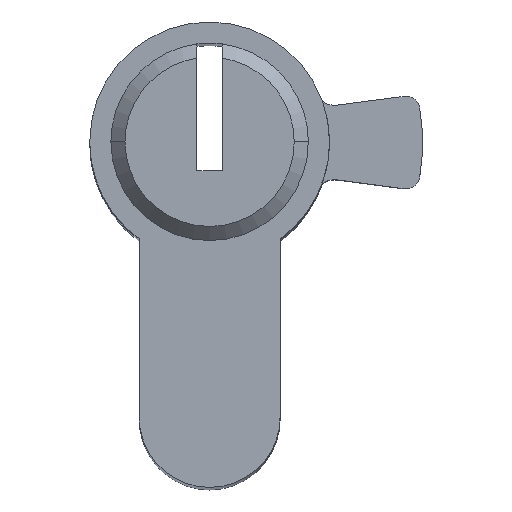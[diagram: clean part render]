
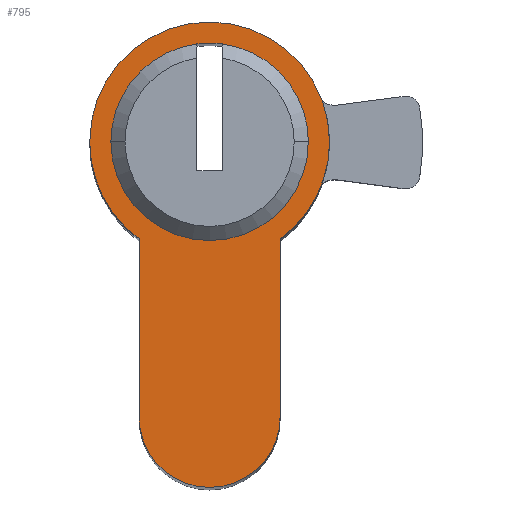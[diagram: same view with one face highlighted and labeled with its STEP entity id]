
A CAD part, top view. The second image highlights one B-rep face of the part: STEP entity #795.
In plain terms, the highlighted planar face has unit normal (0, 0, 1).
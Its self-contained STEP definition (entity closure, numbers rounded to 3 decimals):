
#22 = CARTESIAN_POINT ( 'NONE',  ( -5., -19.5, 30. ) ) ;
#25 = VERTEX_POINT ( 'NONE', #102 ) ;
#58 = DIRECTION ( 'NONE',  ( 0., 0., 1. ) ) ;
#66 = DIRECTION ( 'NONE',  ( 1., 0., 0. ) ) ;
#77 = DIRECTION ( 'NONE',  ( 1., 0., 0. ) ) ;
#93 = CIRCLE ( 'NONE', #362, 5. ) ;
#101 = CARTESIAN_POINT ( 'NONE',  ( 0., 0., 30. ) ) ;
#102 = CARTESIAN_POINT ( 'NONE',  ( 5., -19.5, 30. ) ) ;
#105 = DIRECTION ( 'NONE',  ( 0., -1., 0. ) ) ;
#110 = EDGE_CURVE ( 'NONE', #1666, #321, #805, .T. ) ;
#132 = EDGE_CURVE ( 'NONE', #977, #25, #93, .T. ) ;
#155 = DIRECTION ( 'NONE',  ( 1., 0., 0. ) ) ;
#166 = EDGE_CURVE ( 'NONE', #25, #1250, #1106, .T. ) ;
#174 = CARTESIAN_POINT ( 'NONE',  ( 0., 0., 30. ) ) ;
#203 = DIRECTION ( 'NONE',  ( 0., 0., 1. ) ) ;
#206 = CARTESIAN_POINT ( 'NONE',  ( 0., 0., 30. ) ) ;
#224 = PLANE ( 'NONE',  #450 ) ;
#263 = CARTESIAN_POINT ( 'NONE',  ( 5., -6.874, 30. ) ) ;
#280 = DIRECTION ( 'NONE',  ( 1., 0., 0. ) ) ;
#294 = ORIENTED_EDGE ( 'NONE', *, *, #844, .T. ) ;
#321 = VERTEX_POINT ( 'NONE', #1724 ) ;
#334 = AXIS2_PLACEMENT_3D ( 'NONE', #1681, #203, #66 ) ;
#338 = ORIENTED_EDGE ( 'NONE', *, *, #166, .T. ) ;
#351 = EDGE_CURVE ( 'NONE', #321, #977, #1297, .T. ) ;
#362 = AXIS2_PLACEMENT_3D ( 'NONE', #649, #1058, #1444 ) ;
#399 = DIRECTION ( 'NONE',  ( 1., 0., 0. ) ) ;
#408 = CARTESIAN_POINT ( 'NONE',  ( -7., 0., 30. ) ) ;
#427 = ORIENTED_EDGE ( 'NONE', *, *, #1225, .T. ) ;
#443 = AXIS2_PLACEMENT_3D ( 'NONE', #174, #542, #280 ) ;
#444 = ORIENTED_EDGE ( 'NONE', *, *, #1573, .F. ) ;
#450 = AXIS2_PLACEMENT_3D ( 'NONE', #206, #1454, #77 ) ;
#542 = DIRECTION ( 'NONE',  ( 0., 0., 1. ) ) ;
#553 = CIRCLE ( 'NONE', #443, 7. ) ;
#560 = AXIS2_PLACEMENT_3D ( 'NONE', #1019, #58, #399 ) ;
#649 = CARTESIAN_POINT ( 'NONE',  ( 0., -19.5, 30. ) ) ;
#657 = CARTESIAN_POINT ( 'NONE',  ( -8.5, 0., 30. ) ) ;
#760 = EDGE_CURVE ( 'NONE', #1294, #1141, #1570, .T. ) ;
#782 = DIRECTION ( 'NONE',  ( 1., 0., 0. ) ) ;
#795 = ADVANCED_FACE ( 'NONE', ( #896, #1437 ), #224, .T. ) ;
#802 = ORIENTED_EDGE ( 'NONE', *, *, #351, .T. ) ;
#805 = CIRCLE ( 'NONE', #334, 8.5 ) ;
#826 = AXIS2_PLACEMENT_3D ( 'NONE', #101, #1467, #782 ) ;
#838 = VERTEX_POINT ( 'NONE', #1574 ) ;
#841 = CIRCLE ( 'NONE', #1064, 8.5 ) ;
#844 = EDGE_CURVE ( 'NONE', #1250, #838, #841, .T. ) ;
#893 = ORIENTED_EDGE ( 'NONE', *, *, #1368, .F. ) ;
#896 = FACE_BOUND ( 'NONE', #1560, .T. ) ;
#956 = ORIENTED_EDGE ( 'NONE', *, *, #760, .F. ) ;
#975 = AXIS2_PLACEMENT_3D ( 'NONE', #1112, #1380, #1647 ) ;
#977 = VERTEX_POINT ( 'NONE', #22 ) ;
#983 = CARTESIAN_POINT ( 'NONE',  ( -0.9, 6.942, 30. ) ) ;
#1015 = DIRECTION ( 'NONE',  ( 0., 0., 1. ) ) ;
#1019 = CARTESIAN_POINT ( 'NONE',  ( 0., 0., 30. ) ) ;
#1034 = VECTOR ( 'NONE', #105, 1000. ) ;
#1036 = CARTESIAN_POINT ( 'NONE',  ( 0., 0., 30. ) ) ;
#1058 = DIRECTION ( 'NONE',  ( 0., 0., 1. ) ) ;
#1064 = AXIS2_PLACEMENT_3D ( 'NONE', #1036, #1015, #1425 ) ;
#1106 = LINE ( 'NONE', #1241, #1289 ) ;
#1112 = CARTESIAN_POINT ( 'NONE',  ( 0., 0., 30. ) ) ;
#1120 = CIRCLE ( 'NONE', #1180, 7. ) ;
#1125 = ORIENTED_EDGE ( 'NONE', *, *, #132, .T. ) ;
#1141 = VERTEX_POINT ( 'NONE', #1246 ) ;
#1180 = AXIS2_PLACEMENT_3D ( 'NONE', #1361, #1232, #155 ) ;
#1192 = ORIENTED_EDGE ( 'NONE', *, *, #110, .T. ) ;
#1225 = EDGE_CURVE ( 'NONE', #838, #1666, #1335, .T. ) ;
#1232 = DIRECTION ( 'NONE',  ( 0., 0., 1. ) ) ;
#1241 = CARTESIAN_POINT ( 'NONE',  ( 5., -19.5, 30. ) ) ;
#1246 = CARTESIAN_POINT ( 'NONE',  ( 0.9, 6.942, 30. ) ) ;
#1250 = VERTEX_POINT ( 'NONE', #263 ) ;
#1283 = VERTEX_POINT ( 'NONE', #408 ) ;
#1289 = VECTOR ( 'NONE', #1640, 1000. ) ;
#1294 = VERTEX_POINT ( 'NONE', #1745 ) ;
#1297 = LINE ( 'NONE', #1456, #1034 ) ;
#1330 = EDGE_CURVE ( 'NONE', #1431, #1283, #1120, .T. ) ;
#1335 = CIRCLE ( 'NONE', #826, 8.5 ) ;
#1361 = CARTESIAN_POINT ( 'NONE',  ( 0., 0., 30. ) ) ;
#1366 = ORIENTED_EDGE ( 'NONE', *, *, #1330, .F. ) ;
#1368 = EDGE_CURVE ( 'NONE', #1283, #1294, #553, .T. ) ;
#1374 = CIRCLE ( 'NONE', #560, 7. ) ;
#1380 = DIRECTION ( 'NONE',  ( 0., 0., 1. ) ) ;
#1425 = DIRECTION ( 'NONE',  ( 1., 0., 0. ) ) ;
#1431 = VERTEX_POINT ( 'NONE', #983 ) ;
#1437 = FACE_OUTER_BOUND ( 'NONE', #1532, .T. ) ;
#1444 = DIRECTION ( 'NONE',  ( 1., 0., 0. ) ) ;
#1454 = DIRECTION ( 'NONE',  ( 0., 0., 1. ) ) ;
#1456 = CARTESIAN_POINT ( 'NONE',  ( -5., -6.874, 30. ) ) ;
#1467 = DIRECTION ( 'NONE',  ( 0., 0., 1. ) ) ;
#1532 = EDGE_LOOP ( 'NONE', ( #294, #427, #1192, #802, #1125, #338 ) ) ;
#1560 = EDGE_LOOP ( 'NONE', ( #444, #956, #893, #1366 ) ) ;
#1570 = CIRCLE ( 'NONE', #975, 7. ) ;
#1573 = EDGE_CURVE ( 'NONE', #1141, #1431, #1374, .T. ) ;
#1574 = CARTESIAN_POINT ( 'NONE',  ( 8.5, 0., 30. ) ) ;
#1640 = DIRECTION ( 'NONE',  ( 0., 1., 0. ) ) ;
#1647 = DIRECTION ( 'NONE',  ( 1., 0., 0. ) ) ;
#1666 = VERTEX_POINT ( 'NONE', #657 ) ;
#1681 = CARTESIAN_POINT ( 'NONE',  ( 0., 0., 30. ) ) ;
#1724 = CARTESIAN_POINT ( 'NONE',  ( -5., -6.874, 30. ) ) ;
#1745 = CARTESIAN_POINT ( 'NONE',  ( 7., 0., 30. ) ) ;
